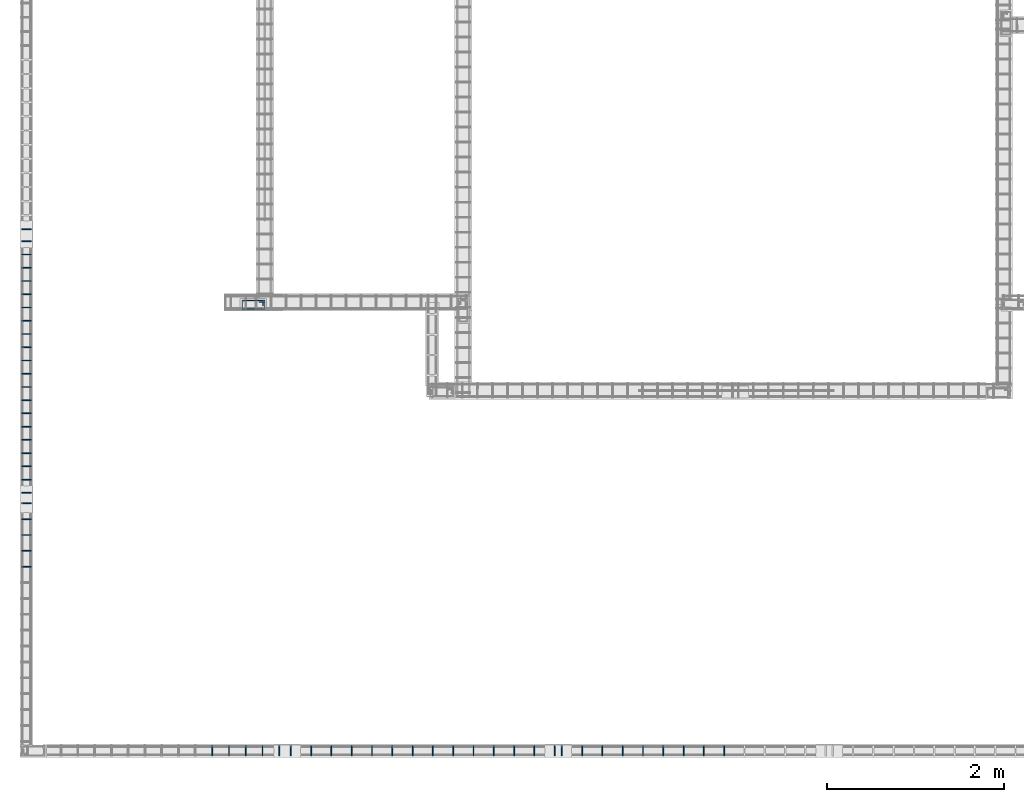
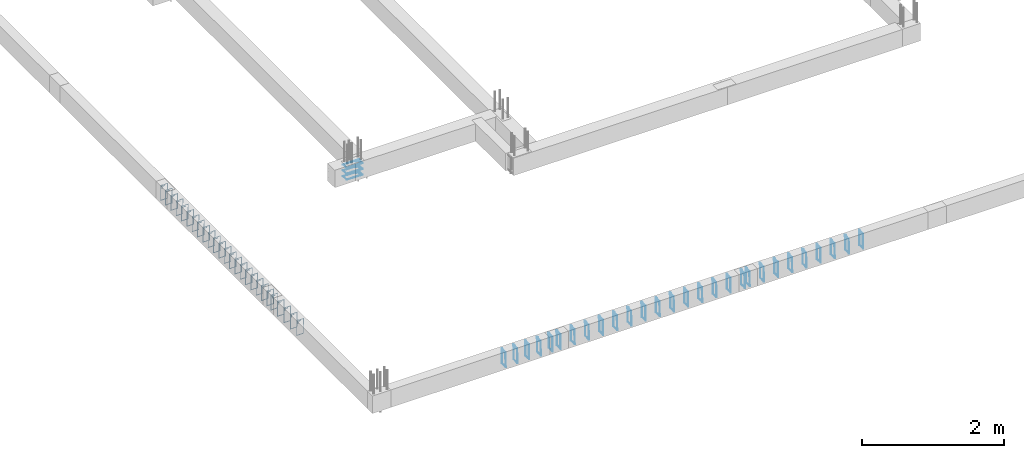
# One storey, part 18 of 150: 57 reinforcing bars.
"""IFC4 building model written with IfcOpenShell, lengths in centimetres."""

from ifc_helpers import new_model, entity, si_unit, derived_unit, frame, origin_with_axes, place, context, project, spatial, source, transform, mapped, element, save


model = new_model("IFC4")

# Units and contexts
model_context = context("Model", 3, precision=1e-05, world=origin_with_axes(), identifier="Body")
ifc_project = project(units=[si_unit("LENGTHUNIT", "METRE", prefix="CENTI"), si_unit("VOLUMEUNIT", "CUBIC_METRE"), si_unit("AREAUNIT", "SQUARE_METRE"), si_unit("POWERUNIT", "WATT"), si_unit("LUMINOUSFLUXUNIT", "LUMEN"), si_unit("ELECTRICCURRENTUNIT", "AMPERE"), si_unit("PRESSUREUNIT", "PASCAL", prefix="KILO"), si_unit("MASSUNIT", "GRAM", prefix="KILO"), si_unit("PLANEANGLEUNIT", "RADIAN"), derived_unit("VOLUMETRICFLOWRATEUNIT", [(si_unit("LENGTHUNIT", "METRE"), 3), (si_unit("TIMEUNIT", "SECOND"), -1)])], contexts=[model_context])

# Site, building, storey
site_placement = place(None, frame((-4000.0, 0.0, 0.0), z_axis=(0.0, 0.0, 1.0), x_axis=(1.0, 0.0, 0.0)))
site = spatial("IfcSite", under=ifc_project, at=site_placement, Name="PADRÃO")
building_placement = place(site_placement, frame((0.0, 0.0, -14.0)))
building = spatial("IfcBuilding", under=site, at=building_placement, Name="CRECHE PRÉ-ESCOLA TIPO 2")
placement = place(building_placement, origin_with_axes())
storey_placement = place(placement, frame((0.0, 0.0, 30.0), z_axis=(0.0, 0.0, 1.0), x_axis=(1.0, 0.0, 0.0)))
storey = spatial("IfcBuildingStorey", under=building, at=storey_placement, Name="VIGA BALDRAME", CompositionType="ELEMENT", Elevation=16.0)

# Reinforcing bars
shared_shape_1 = source(origin_with_axes(), model_context, "Body", "AdvancedSweptSolid", [
    entity("IfcSweptDiskSolid", entity("IfcCompositeCurve", [entity("IfcCompositeCurveSegment", "CONTINUOUS", True, entity("IfcPolyline", [entity("IfcCartesianPoint", [4.25, 21.75, 0.0]), entity("IfcCartesianPoint", [4.25, 27.75, 0.0])])), entity("IfcCompositeCurveSegment", "CONTINUOUS", True, entity("IfcPolyline", [entity("IfcCartesianPoint", [4.25, 27.75, 0.0]), entity("IfcCartesianPoint", [2.25, 27.75, 0.0])])), entity("IfcCompositeCurveSegment", "CONTINUOUS", True, entity("IfcPolyline", [entity("IfcCartesianPoint", [2.25, 27.75, 0.0]), entity("IfcCartesianPoint", [2.25, 2.25, 0.0])])), entity("IfcCompositeCurveSegment", "CONTINUOUS", True, entity("IfcPolyline", [entity("IfcCartesianPoint", [2.25, 2.25, 0.0]), entity("IfcCartesianPoint", [11.75, 2.25, 0.0])])), entity("IfcCompositeCurveSegment", "CONTINUOUS", True, entity("IfcPolyline", [entity("IfcCartesianPoint", [11.75, 2.25, 0.0]), entity("IfcCartesianPoint", [11.75, 27.75, -0.5])])), entity("IfcCompositeCurveSegment", "CONTINUOUS", True, entity("IfcPolyline", [entity("IfcCartesianPoint", [11.75, 27.75, -0.5]), entity("IfcCartesianPoint", [2.25, 27.75, -0.5])])), entity("IfcCompositeCurveSegment", "CONTINUOUS", True, entity("IfcPolyline", [entity("IfcCartesianPoint", [2.25, 27.75, -0.5]), entity("IfcCartesianPoint", [2.25, 25.75, -0.5])])), entity("IfcCompositeCurveSegment", "CONTINUOUS", True, entity("IfcPolyline", [entity("IfcCartesianPoint", [2.25, 25.75, -0.5]), entity("IfcCartesianPoint", [8.25, 25.75, -0.5])]))], False), 0.25),
])
for number, where, z_axis, x_axis, name in (
    (1, (251.0, 522.0, -5.0), (0.0, 0.0, 1.0), (0.0, -1.0, 0.0), "P135 - Estribo"),
    (2, (251.0, 522.0, -15.0), (0.0, 0.0, 1.0), (0.0, -1.0, 0.0), "P135 - Estribo"),
    (3, (251.0, 522.0, -25.0), (0.0, 0.0, 1.0), (0.0, -1.0, 0.0), "P135 - Estribo"),
):
    element("IfcReinforcingBar", number, at=place(storey_placement, frame(where, z_axis=z_axis, x_axis=x_axis)), inside=storey, Name=name, BarLength=0.0, CrossSectionArea=1.9634954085e-05, NominalDiameter=0.5, PredefinedType="MAIN", context=model_context, shape_type="MappedRepresentation", body=[
        mapped(shared_shape_1, transform((0.0, 0.0, 0.0), scale=1.0)),
    ])
shared_shape_2 = source(origin_with_axes(), model_context, "Body", "AdvancedSweptSolid", [
    entity("IfcSweptDiskSolid", entity("IfcCompositeCurve", [entity("IfcCompositeCurveSegment", "CONTINUOUS", True, entity("IfcPolyline", [entity("IfcCartesianPoint", [2.0, -6.0, 0.0]), entity("IfcCartesianPoint", [2.0, 0.0, 0.0])])), entity("IfcCompositeCurveSegment", "CONTINUOUS", True, entity("IfcPolyline", [entity("IfcCartesianPoint", [2.0, 0.0, 0.0]), entity("IfcCartesianPoint", [0.0, 0.0, 0.0])])), entity("IfcCompositeCurveSegment", "CONTINUOUS", True, entity("IfcPolyline", [entity("IfcCartesianPoint", [0.0, 0.0, 0.0]), entity("IfcCartesianPoint", [0.0, -25.5, 0.0])])), entity("IfcCompositeCurveSegment", "CONTINUOUS", True, entity("IfcPolyline", [entity("IfcCartesianPoint", [0.0, -25.5, 0.0]), entity("IfcCartesianPoint", [10.5, -25.5, 0.0])])), entity("IfcCompositeCurveSegment", "CONTINUOUS", True, entity("IfcPolyline", [entity("IfcCartesianPoint", [10.5, -25.5, 0.0]), entity("IfcCartesianPoint", [10.5, 0.0, 0.5])])), entity("IfcCompositeCurveSegment", "CONTINUOUS", True, entity("IfcPolyline", [entity("IfcCartesianPoint", [10.5, 0.0, 0.5]), entity("IfcCartesianPoint", [0.0, 0.0, 0.5])])), entity("IfcCompositeCurveSegment", "CONTINUOUS", True, entity("IfcPolyline", [entity("IfcCartesianPoint", [0.0, 0.0, 0.5]), entity("IfcCartesianPoint", [0.0, -2.0, 0.5])])), entity("IfcCompositeCurveSegment", "CONTINUOUS", True, entity("IfcPolyline", [entity("IfcCartesianPoint", [0.0, -2.0, 0.5]), entity("IfcCartesianPoint", [6.0, -2.0, 0.5])]))], False), 0.25),
])
for number, where, z_axis, x_axis, name in (
    (4, (3.75, 290.25, -2.25), (0.0, -1.0, 0.0), (1.0, 0.0, 0.0), "V159 - Estribo"),
    (5, (3.75, 272.25, -2.25), (0.0, -1.0, 0.0), (1.0, 0.0, 0.0), "V159 - Estribo"),
    (6, (3.75, 254.25, -2.25), (0.0, -1.0, 0.0), (1.0, 0.0, 0.0), "V159 - Estribo"),
    (7, (3.75, 236.25, -2.25), (0.0, -1.0, 0.0), (1.0, 0.0, 0.0), "V159 - Estribo"),
    (8, (3.75, 218.25, -2.25), (0.0, -1.0, 0.0), (1.0, 0.0, 0.0), "V159 - Estribo"),
):
    element("IfcReinforcingBar", number, at=place(storey_placement, frame(where, z_axis=z_axis, x_axis=x_axis)), inside=storey, Name=name, BarLength=0.0, CrossSectionArea=1.9634954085e-05, NominalDiameter=0.5, PredefinedType="MAIN", context=model_context, shape_type="MappedRepresentation", body=[
        mapped(shared_shape_2, transform((0.0, 0.0, 0.0), scale=1.0)),
    ])
shared_shape_3 = source(origin_with_axes(), model_context, "Body", "AdvancedSweptSolid", [
    entity("IfcSweptDiskSolid", entity("IfcCompositeCurve", [entity("IfcCompositeCurveSegment", "CONTINUOUS", True, entity("IfcPolyline", [entity("IfcCartesianPoint", [2.0, -6.0, 0.0]), entity("IfcCartesianPoint", [2.0, 0.0, 0.0])])), entity("IfcCompositeCurveSegment", "CONTINUOUS", True, entity("IfcPolyline", [entity("IfcCartesianPoint", [2.0, 0.0, 0.0]), entity("IfcCartesianPoint", [0.0, 0.0, 0.0])])), entity("IfcCompositeCurveSegment", "CONTINUOUS", True, entity("IfcPolyline", [entity("IfcCartesianPoint", [0.0, 0.0, 0.0]), entity("IfcCartesianPoint", [0.0, -25.5, 0.0])])), entity("IfcCompositeCurveSegment", "CONTINUOUS", True, entity("IfcPolyline", [entity("IfcCartesianPoint", [0.0, -25.5, 0.0]), entity("IfcCartesianPoint", [10.5, -25.5, 0.0])])), entity("IfcCompositeCurveSegment", "CONTINUOUS", True, entity("IfcPolyline", [entity("IfcCartesianPoint", [10.5, -25.5, 0.0]), entity("IfcCartesianPoint", [10.5, 0.0, 0.5])])), entity("IfcCompositeCurveSegment", "CONTINUOUS", True, entity("IfcPolyline", [entity("IfcCartesianPoint", [10.5, 0.0, 0.5]), entity("IfcCartesianPoint", [0.0, 0.0, 0.5])])), entity("IfcCompositeCurveSegment", "CONTINUOUS", True, entity("IfcPolyline", [entity("IfcCartesianPoint", [0.0, 0.0, 0.5]), entity("IfcCartesianPoint", [0.0, -2.0, 0.5])])), entity("IfcCompositeCurveSegment", "CONTINUOUS", True, entity("IfcPolyline", [entity("IfcCartesianPoint", [0.0, -2.0, 0.5]), entity("IfcCartesianPoint", [6.0, -2.0, 0.5])]))], False), 0.25),
])
for number, where, z_axis, x_axis, name in (
    (9, (3.75, 587.0, -2.25), (0.0, -1.0, 0.0), (1.0, 0.0, 0.0), "V159 - Estribo"),
    (10, (3.75, 572.0, -2.25), (0.0, -1.0, 0.0), (1.0, 0.0, 0.0), "V159 - Estribo"),
    (11, (3.75, 557.0, -2.25), (0.0, -1.0, 0.0), (1.0, 0.0, 0.0), "V159 - Estribo"),
    (12, (3.75, 542.0, -2.25), (0.0, -1.0, 0.0), (1.0, 0.0, 0.0), "V159 - Estribo"),
    (13, (3.75, 527.0, -2.25), (0.0, -1.0, 0.0), (1.0, 0.0, 0.0), "V159 - Estribo"),
    (14, (3.75, 512.0, -2.25), (0.0, -1.0, 0.0), (1.0, 0.0, 0.0), "V159 - Estribo"),
    (15, (3.75, 497.0, -2.25), (0.0, -1.0, 0.0), (1.0, 0.0, 0.0), "V159 - Estribo"),
    (16, (3.75, 482.0, -2.25), (0.0, -1.0, 0.0), (1.0, 0.0, 0.0), "V159 - Estribo"),
    (17, (3.75, 467.0, -2.25), (0.0, -1.0, 0.0), (1.0, 0.0, 0.0), "V159 - Estribo"),
    (18, (3.75, 452.0, -2.25), (0.0, -1.0, 0.0), (1.0, 0.0, 0.0), "V159 - Estribo"),
    (19, (3.75, 437.0, -2.25), (0.0, -1.0, 0.0), (1.0, 0.0, 0.0), "V159 - Estribo"),
    (20, (3.75, 422.0, -2.25), (0.0, -1.0, 0.0), (1.0, 0.0, 0.0), "V159 - Estribo"),
    (21, (3.75, 407.0, -2.25), (0.0, -1.0, 0.0), (1.0, 0.0, 0.0), "V159 - Estribo"),
    (22, (3.75, 392.0, -2.25), (0.0, -1.0, 0.0), (1.0, 0.0, 0.0), "V159 - Estribo"),
    (23, (3.75, 377.0, -2.25), (0.0, -1.0, 0.0), (1.0, 0.0, 0.0), "V159 - Estribo"),
    (24, (3.75, 362.0, -2.25), (0.0, -1.0, 0.0), (1.0, 0.0, 0.0), "V159 - Estribo"),
    (25, (3.75, 347.0, -2.25), (0.0, -1.0, 0.0), (1.0, 0.0, 0.0), "V159 - Estribo"),
    (26, (3.75, 332.0, -2.25), (0.0, -1.0, 0.0), (1.0, 0.0, 0.0), "V159 - Estribo"),
    (27, (3.75, 317.0, -2.25), (0.0, -1.0, 0.0), (1.0, 0.0, 0.0), "V159 - Estribo"),
    (28, (3.75, 302.0, -2.25), (0.0, -1.0, 0.0), (1.0, 0.0, 0.0), "V159 - Estribo"),
):
    element("IfcReinforcingBar", number, at=place(storey_placement, frame(where, z_axis=z_axis, x_axis=x_axis)), inside=storey, Name=name, BarLength=0.0, CrossSectionArea=1.9634954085e-05, NominalDiameter=0.5, PredefinedType="MAIN", context=model_context, shape_type="MappedRepresentation", body=[
        mapped(shared_shape_3, transform((0.0, 0.0, 0.0), scale=1.0)),
    ])
shared_shape_4 = source(origin_with_axes(), model_context, "Body", "AdvancedSweptSolid", [
    entity("IfcSweptDiskSolid", entity("IfcCompositeCurve", [entity("IfcCompositeCurveSegment", "CONTINUOUS", True, entity("IfcPolyline", [entity("IfcCartesianPoint", [2.0, -6.0, 0.0]), entity("IfcCartesianPoint", [2.0, 0.0, 0.0])])), entity("IfcCompositeCurveSegment", "CONTINUOUS", True, entity("IfcPolyline", [entity("IfcCartesianPoint", [2.0, 0.0, 0.0]), entity("IfcCartesianPoint", [0.0, 0.0, 0.0])])), entity("IfcCompositeCurveSegment", "CONTINUOUS", True, entity("IfcPolyline", [entity("IfcCartesianPoint", [0.0, 0.0, 0.0]), entity("IfcCartesianPoint", [0.0, -25.5, 0.0])])), entity("IfcCompositeCurveSegment", "CONTINUOUS", True, entity("IfcPolyline", [entity("IfcCartesianPoint", [0.0, -25.5, 0.0]), entity("IfcCartesianPoint", [10.5, -25.5, 0.0])])), entity("IfcCompositeCurveSegment", "CONTINUOUS", True, entity("IfcPolyline", [entity("IfcCartesianPoint", [10.5, -25.5, 0.0]), entity("IfcCartesianPoint", [10.5, 0.0, 0.5])])), entity("IfcCompositeCurveSegment", "CONTINUOUS", True, entity("IfcPolyline", [entity("IfcCartesianPoint", [10.5, 0.0, 0.5]), entity("IfcCartesianPoint", [0.0, 0.0, 0.5])])), entity("IfcCompositeCurveSegment", "CONTINUOUS", True, entity("IfcPolyline", [entity("IfcCartesianPoint", [0.0, 0.0, 0.5]), entity("IfcCartesianPoint", [0.0, -2.0, 0.5])])), entity("IfcCompositeCurveSegment", "CONTINUOUS", True, entity("IfcPolyline", [entity("IfcCartesianPoint", [0.0, -2.0, 0.5]), entity("IfcCartesianPoint", [6.0, -2.0, 0.5])]))], False), 0.25),
])
reinforcing_bar_placement = place(storey_placement, frame((3.75, 600.5, -2.25), z_axis=(0.0, -1.0, 0.0), x_axis=(1.0, 0.0, 0.0)))
element("IfcReinforcingBar", 29, at=reinforcing_bar_placement, inside=storey, Name="V159 - Estribo", BarLength=0.0, CrossSectionArea=1.9634954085e-05, NominalDiameter=0.5, PredefinedType="MAIN", context=model_context, shape_type="MappedRepresentation", body=[
    mapped(shared_shape_4, transform((0.0, 0.0, 0.0), scale=1.0)),
])
shared_shape_5 = source(origin_with_axes(), model_context, "Body", "AdvancedSweptSolid", [
    entity("IfcSweptDiskSolid", entity("IfcCompositeCurve", [entity("IfcCompositeCurveSegment", "CONTINUOUS", True, entity("IfcPolyline", [entity("IfcCartesianPoint", [2.0, -6.0, 0.0]), entity("IfcCartesianPoint", [2.0, 0.0, 0.0])])), entity("IfcCompositeCurveSegment", "CONTINUOUS", True, entity("IfcPolyline", [entity("IfcCartesianPoint", [2.0, 0.0, 0.0]), entity("IfcCartesianPoint", [0.0, 0.0, 0.0])])), entity("IfcCompositeCurveSegment", "CONTINUOUS", True, entity("IfcPolyline", [entity("IfcCartesianPoint", [0.0, 0.0, 0.0]), entity("IfcCartesianPoint", [0.0, -25.5, 0.0])])), entity("IfcCompositeCurveSegment", "CONTINUOUS", True, entity("IfcPolyline", [entity("IfcCartesianPoint", [0.0, -25.5, 0.0]), entity("IfcCartesianPoint", [10.5, -25.5, 0.0])])), entity("IfcCompositeCurveSegment", "CONTINUOUS", True, entity("IfcPolyline", [entity("IfcCartesianPoint", [10.5, -25.5, 0.0]), entity("IfcCartesianPoint", [10.5, 0.0, 0.5])])), entity("IfcCompositeCurveSegment", "CONTINUOUS", True, entity("IfcPolyline", [entity("IfcCartesianPoint", [10.5, 0.0, 0.5]), entity("IfcCartesianPoint", [0.0, 0.0, 0.5])])), entity("IfcCompositeCurveSegment", "CONTINUOUS", True, entity("IfcPolyline", [entity("IfcCartesianPoint", [0.0, 0.0, 0.5]), entity("IfcCartesianPoint", [0.0, -2.0, 0.5])])), entity("IfcCompositeCurveSegment", "CONTINUOUS", True, entity("IfcPolyline", [entity("IfcCartesianPoint", [0.0, -2.0, 0.5]), entity("IfcCartesianPoint", [6.0, -2.0, 0.5])]))], False), 0.25),
])
for number, where, z_axis, x_axis, name in (
    (30, (295.5, 14.75, -2.25), (-1.0, 0.0, 0.0), (0.0, -1.0, 0.0), "V158 - Estribo"),
    (31, (276.5, 14.75, -2.25), (-1.0, 0.0, 0.0), (0.0, -1.0, 0.0), "V158 - Estribo"),
    (32, (257.5, 14.75, -2.25), (-1.0, 0.0, 0.0), (0.0, -1.0, 0.0), "V158 - Estribo"),
    (33, (238.5, 14.75, -2.25), (-1.0, 0.0, 0.0), (0.0, -1.0, 0.0), "V158 - Estribo"),
    (34, (219.5, 14.75, -2.25), (-1.0, 0.0, 0.0), (0.0, -1.0, 0.0), "V158 - Estribo"),
):
    element("IfcReinforcingBar", number, at=place(storey_placement, frame(where, z_axis=z_axis, x_axis=x_axis)), inside=storey, Name=name, BarLength=0.0, CrossSectionArea=1.9634954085e-05, NominalDiameter=0.5, PredefinedType="MAIN", context=model_context, shape_type="MappedRepresentation", body=[
        mapped(shared_shape_5, transform((0.0, 0.0, 0.0), scale=1.0)),
    ])
shared_shape_6 = source(origin_with_axes(), model_context, "Body", "AdvancedSweptSolid", [
    entity("IfcSweptDiskSolid", entity("IfcCompositeCurve", [entity("IfcCompositeCurveSegment", "CONTINUOUS", True, entity("IfcPolyline", [entity("IfcCartesianPoint", [2.0, -6.0, 0.0]), entity("IfcCartesianPoint", [2.0, 0.0, 0.0])])), entity("IfcCompositeCurveSegment", "CONTINUOUS", True, entity("IfcPolyline", [entity("IfcCartesianPoint", [2.0, 0.0, 0.0]), entity("IfcCartesianPoint", [0.0, 0.0, 0.0])])), entity("IfcCompositeCurveSegment", "CONTINUOUS", True, entity("IfcPolyline", [entity("IfcCartesianPoint", [0.0, 0.0, 0.0]), entity("IfcCartesianPoint", [0.0, -25.5, 0.0])])), entity("IfcCompositeCurveSegment", "CONTINUOUS", True, entity("IfcPolyline", [entity("IfcCartesianPoint", [0.0, -25.5, 0.0]), entity("IfcCartesianPoint", [10.5, -25.5, 0.0])])), entity("IfcCompositeCurveSegment", "CONTINUOUS", True, entity("IfcPolyline", [entity("IfcCartesianPoint", [10.5, -25.5, 0.0]), entity("IfcCartesianPoint", [10.5, 0.0, 0.5])])), entity("IfcCompositeCurveSegment", "CONTINUOUS", True, entity("IfcPolyline", [entity("IfcCartesianPoint", [10.5, 0.0, 0.5]), entity("IfcCartesianPoint", [0.0, 0.0, 0.5])])), entity("IfcCompositeCurveSegment", "CONTINUOUS", True, entity("IfcPolyline", [entity("IfcCartesianPoint", [0.0, 0.0, 0.5]), entity("IfcCartesianPoint", [0.0, -2.0, 0.5])])), entity("IfcCompositeCurveSegment", "CONTINUOUS", True, entity("IfcPolyline", [entity("IfcCartesianPoint", [0.0, -2.0, 0.5]), entity("IfcCartesianPoint", [6.0, -2.0, 0.5])]))], False), 0.25),
])
for number, where, z_axis, x_axis, name in (
    (35, (538.5, 14.75, -2.25), (-1.0, 0.0, 0.0), (0.0, -1.0, 0.0), "V158 - Estribo"),
    (36, (515.5, 14.75, -2.25), (-1.0, 0.0, 0.0), (0.0, -1.0, 0.0), "V158 - Estribo"),
    (37, (492.5, 14.75, -2.25), (-1.0, 0.0, 0.0), (0.0, -1.0, 0.0), "V158 - Estribo"),
    (38, (469.5, 14.75, -2.25), (-1.0, 0.0, 0.0), (0.0, -1.0, 0.0), "V158 - Estribo"),
    (39, (446.5, 14.75, -2.25), (-1.0, 0.0, 0.0), (0.0, -1.0, 0.0), "V158 - Estribo"),
    (40, (423.5, 14.75, -2.25), (-1.0, 0.0, 0.0), (0.0, -1.0, 0.0), "V158 - Estribo"),
    (41, (400.5, 14.75, -2.25), (-1.0, 0.0, 0.0), (0.0, -1.0, 0.0), "V158 - Estribo"),
    (42, (377.5, 14.75, -2.25), (-1.0, 0.0, 0.0), (0.0, -1.0, 0.0), "V158 - Estribo"),
    (43, (354.5, 14.75, -2.25), (-1.0, 0.0, 0.0), (0.0, -1.0, 0.0), "V158 - Estribo"),
    (44, (331.5, 14.75, -2.25), (-1.0, 0.0, 0.0), (0.0, -1.0, 0.0), "V158 - Estribo"),
    (45, (308.5, 14.75, -2.25), (-1.0, 0.0, 0.0), (0.0, -1.0, 0.0), "V158 - Estribo"),
    (46, (607.5, 14.75, -2.25), (-1.0, 0.0, 0.0), (0.0, -1.0, 0.0), "V158 - Estribo"),
    (47, (584.5, 14.75, -2.25), (-1.0, 0.0, 0.0), (0.0, -1.0, 0.0), "V158 - Estribo"),
    (48, (561.5, 14.75, -2.25), (-1.0, 0.0, 0.0), (0.0, -1.0, 0.0), "V158 - Estribo"),
):
    element("IfcReinforcingBar", number, at=place(storey_placement, frame(where, z_axis=z_axis, x_axis=x_axis)), inside=storey, Name=name, BarLength=0.0, CrossSectionArea=1.9634954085e-05, NominalDiameter=0.5, PredefinedType="MAIN", context=model_context, shape_type="MappedRepresentation", body=[
        mapped(shared_shape_6, transform((0.0, 0.0, 0.0), scale=1.0)),
    ])
shared_shape_7 = source(origin_with_axes(), model_context, "Body", "AdvancedSweptSolid", [
    entity("IfcSweptDiskSolid", entity("IfcCompositeCurve", [entity("IfcCompositeCurveSegment", "CONTINUOUS", True, entity("IfcPolyline", [entity("IfcCartesianPoint", [2.0, -6.0, 0.0]), entity("IfcCartesianPoint", [2.0, 0.0, 0.0])])), entity("IfcCompositeCurveSegment", "CONTINUOUS", True, entity("IfcPolyline", [entity("IfcCartesianPoint", [2.0, 0.0, 0.0]), entity("IfcCartesianPoint", [0.0, 0.0, 0.0])])), entity("IfcCompositeCurveSegment", "CONTINUOUS", True, entity("IfcPolyline", [entity("IfcCartesianPoint", [0.0, 0.0, 0.0]), entity("IfcCartesianPoint", [0.0, -25.5, 0.0])])), entity("IfcCompositeCurveSegment", "CONTINUOUS", True, entity("IfcPolyline", [entity("IfcCartesianPoint", [0.0, -25.5, 0.0]), entity("IfcCartesianPoint", [10.5, -25.5, 0.0])])), entity("IfcCompositeCurveSegment", "CONTINUOUS", True, entity("IfcPolyline", [entity("IfcCartesianPoint", [10.5, -25.5, 0.0]), entity("IfcCartesianPoint", [10.5, 0.0, 0.5])])), entity("IfcCompositeCurveSegment", "CONTINUOUS", True, entity("IfcPolyline", [entity("IfcCartesianPoint", [10.5, 0.0, 0.5]), entity("IfcCartesianPoint", [0.0, 0.0, 0.5])])), entity("IfcCompositeCurveSegment", "CONTINUOUS", True, entity("IfcPolyline", [entity("IfcCartesianPoint", [0.0, 0.0, 0.5]), entity("IfcCartesianPoint", [0.0, -2.0, 0.5])])), entity("IfcCompositeCurveSegment", "CONTINUOUS", True, entity("IfcPolyline", [entity("IfcCartesianPoint", [0.0, -2.0, 0.5]), entity("IfcCartesianPoint", [6.0, -2.0, 0.5])]))], False), 0.25),
])
for number, where, z_axis, x_axis, name in (
    (49, (753.5, 14.75, -2.25), (-1.0, 0.0, 0.0), (0.0, -1.0, 0.0), "V158 - Estribo"),
    (50, (730.5, 14.75, -2.25), (-1.0, 0.0, 0.0), (0.0, -1.0, 0.0), "V158 - Estribo"),
    (51, (707.5, 14.75, -2.25), (-1.0, 0.0, 0.0), (0.0, -1.0, 0.0), "V158 - Estribo"),
    (52, (684.5, 14.75, -2.25), (-1.0, 0.0, 0.0), (0.0, -1.0, 0.0), "V158 - Estribo"),
    (53, (661.5, 14.75, -2.25), (-1.0, 0.0, 0.0), (0.0, -1.0, 0.0), "V158 - Estribo"),
    (54, (638.5, 14.75, -2.25), (-1.0, 0.0, 0.0), (0.0, -1.0, 0.0), "V158 - Estribo"),
    (55, (615.5, 14.75, -2.25), (-1.0, 0.0, 0.0), (0.0, -1.0, 0.0), "V158 - Estribo"),
    (56, (799.5, 14.75, -2.25), (-1.0, 0.0, 0.0), (0.0, -1.0, 0.0), "V158 - Estribo"),
    (57, (776.5, 14.75, -2.25), (-1.0, 0.0, 0.0), (0.0, -1.0, 0.0), "V158 - Estribo"),
):
    element("IfcReinforcingBar", number, at=place(storey_placement, frame(where, z_axis=z_axis, x_axis=x_axis)), inside=storey, Name=name, BarLength=0.0, CrossSectionArea=1.9634954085e-05, NominalDiameter=0.5, PredefinedType="MAIN", context=model_context, shape_type="MappedRepresentation", body=[
        mapped(shared_shape_7, transform((0.0, 0.0, 0.0), scale=1.0)),
    ])

save(model, "model.ifc")
